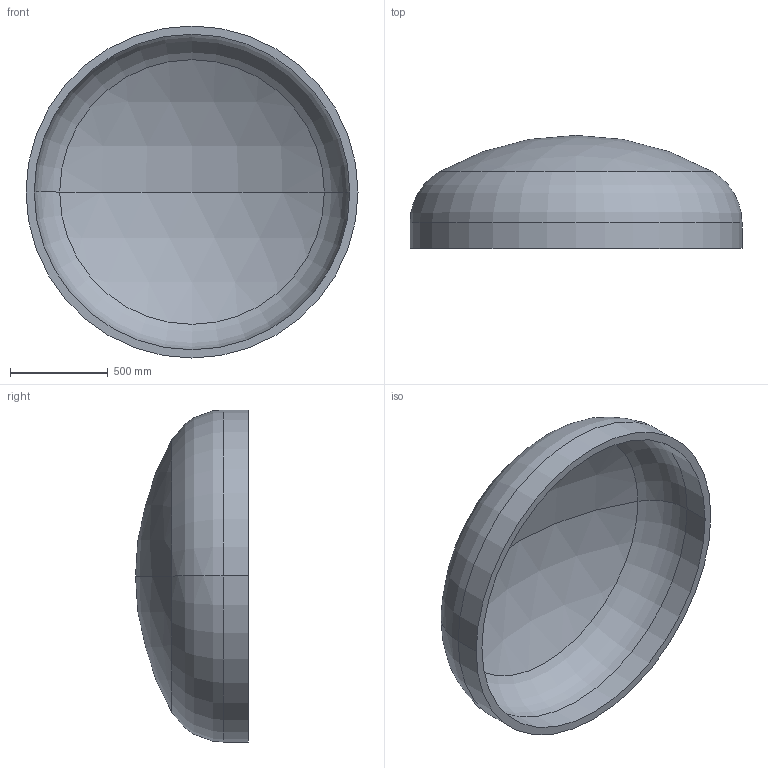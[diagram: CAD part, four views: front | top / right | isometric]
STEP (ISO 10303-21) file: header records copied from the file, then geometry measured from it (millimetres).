
FILE_DESCRIPTION (( 'STEP AP203' ), '1' );
FILE_NAME ('DIN 28013 Korbbogenform_-_Boden DIN 28013 - 1700 x 130 - I - s=42.step', '2016-07-01T11:49:59', ( '' ), ( '' ), 'SwSTEP 2.0', 'SolidWorks 2013', '' );
FILE_SCHEMA (( 'CONFIG_CONTROL_DESIGN' ));
Length unit declared in the file: millimetre
Products named in the file (1): DIN 28013 Korbbogenform_-_Boden DIN 28013 - 1700 x 130 - I - s=42
Bounding box: 1700 x 578.22 x 1700 mm (x, y, z)
Volume: 156086473.6 mm3; surface area: 7655149.5 mm2
Topology: 1 solids, 1 shells, 13 faces, 24 edges, 14 vertices
Faces by surface type: torus 4, cylinder 4, sphere 4, plane 1
Entity records: 407 total; most frequent: DIRECTION 72, CARTESIAN_POINT 52, ORIENTED_EDGE 48, AXIS2_PLACEMENT_3D 34, EDGE_CURVE 24, CIRCLE 20, EDGE_LOOP 14, VERTEX_POINT 14
